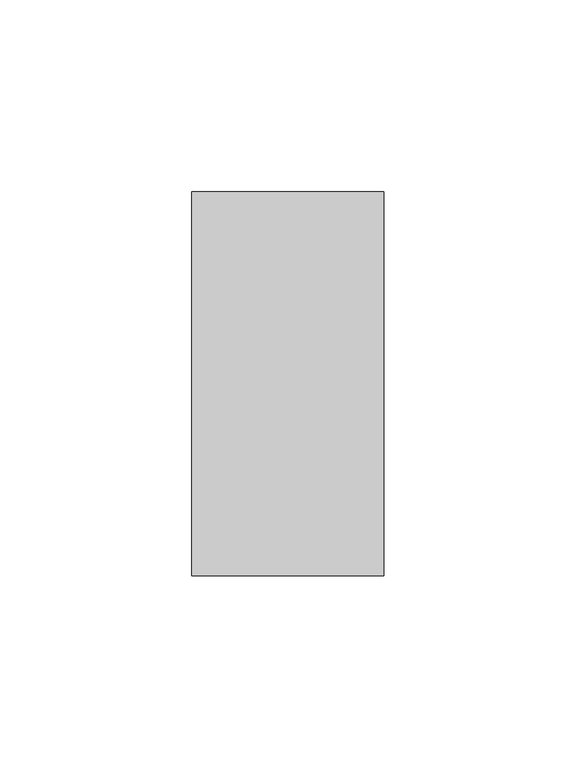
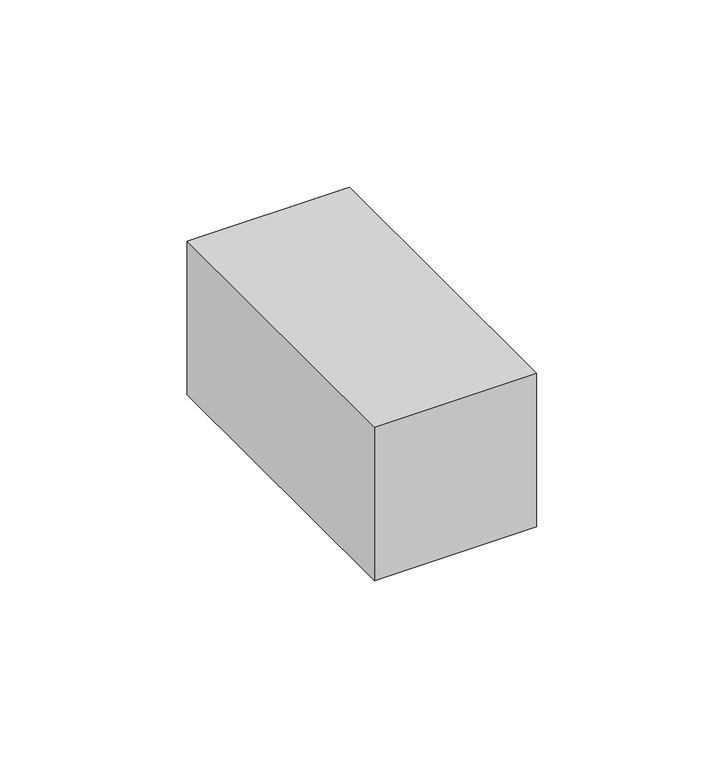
"""IFC4 building model written with IfcOpenShell, lengths in millimetres: member geometry, Прямоугольный импост : 50х100 мм."""

from ifc_helpers import new_model, si_unit, frame, origin, place, context, project, spatial, polyline, outline, extrude, source, transform, mapped, element, save


def member_61a6de6b(model_context):
    return source(origin(), model_context, "Body", "SweptSolid", [
        extrude(outline(polyline([(0.0, 50.0), (0.0, -50.0), (-50.0, -50.0), (-50.0, 50.0), (0.0, 50.0)])), frame((0.0, 0.0, -50.0), z_axis=(0.0, 0.0, 1.0), x_axis=(1.0, 0.0, 0.0)), (0.0, 0.0, 1.0), 50.0),
    ])


if __name__ == "__main__":
    model = new_model("IFC4")
    model_context = context("Model", 3, world=origin())
    ifc_project = project(units=[si_unit("LENGTHUNIT", "METRE", prefix="MILLI")], contexts=[model_context])
    site = spatial("IfcSite", under=ifc_project)
    building = spatial("IfcBuilding", under=site)
    placement = place(None, origin())
    member_shape = member_61a6de6b(model_context)
    element("IfcMember", 1, ObjectType="Прямоугольный импост : 50х100 мм", at=placement, inside=building, context=model_context, shape_type="MappedRepresentation", body=[
        mapped(member_shape, transform((0.0, 0.0, 0.0), x_axis=(1.0, 0.0, 0.0), y_axis=(0.0, 1.0, 0.0), z_axis=(0.0, 0.0, 1.0))),
    ])
    save(model, "model.ifc")
